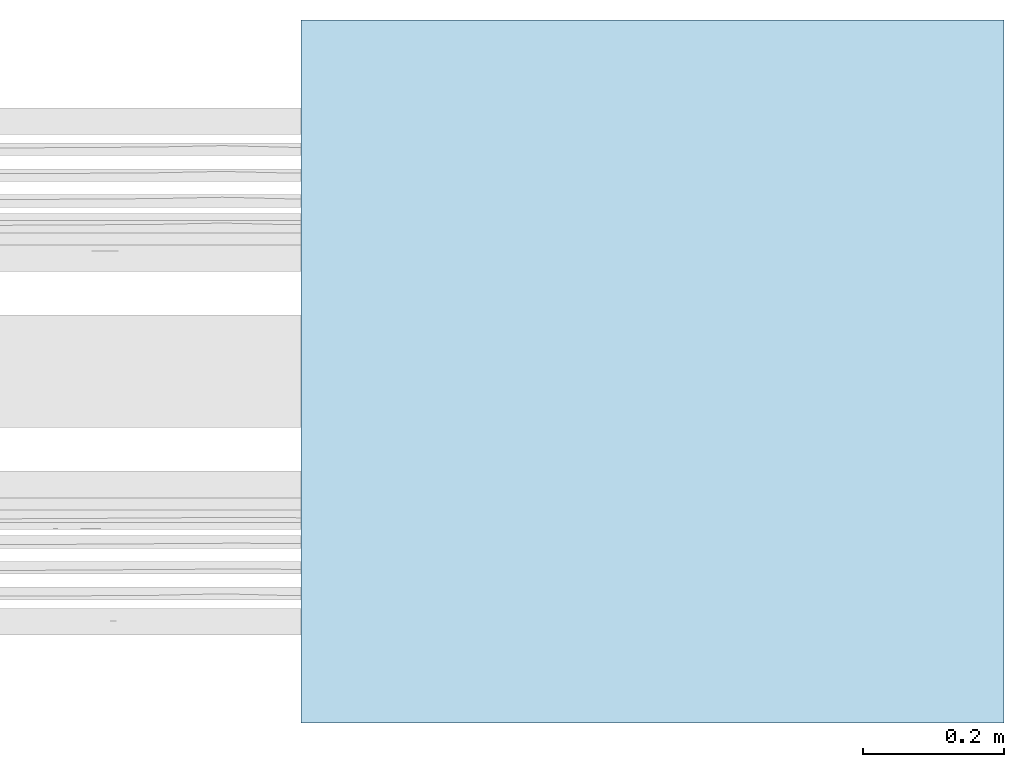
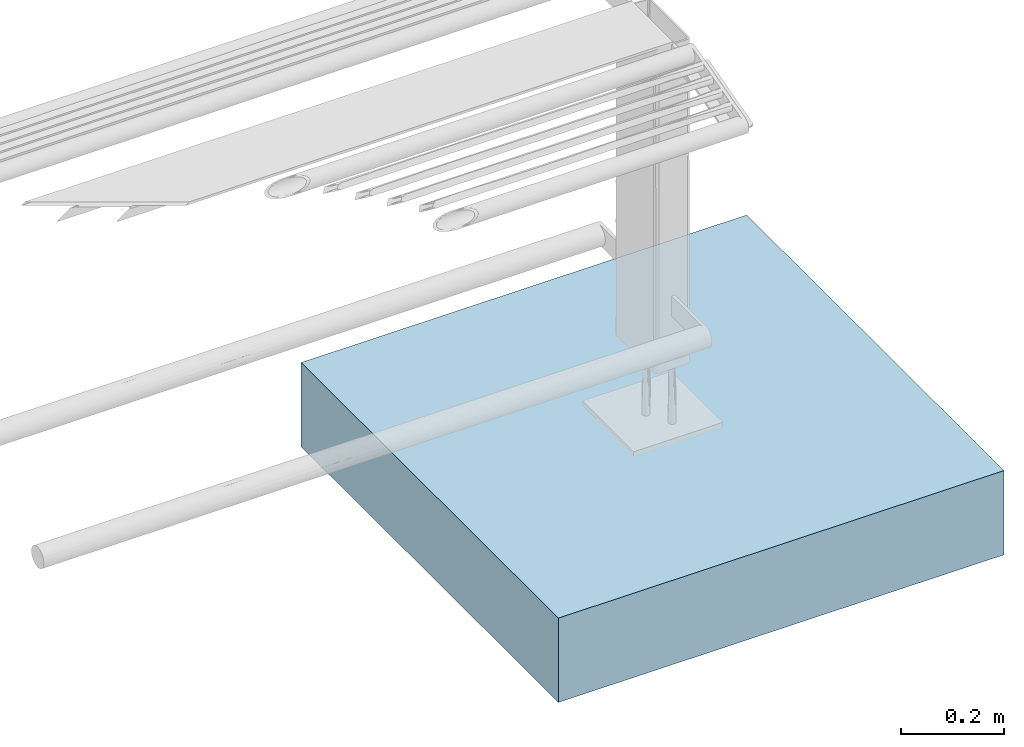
# One storey, incomplete: 1 slab.
"""IFC4 building model written with IfcOpenShell, lengths in metres."""

from ifc_helpers import new_model, entity, si_unit, converted_unit, direction, frame, frame_2d, origin, place, context, subcontext, project, spatial, rectangle, extrude, material, type_object, element, save


model = new_model("IFC4")

# Units and contexts
model_context = context("Model", 3, precision=1e-05, world=origin(), true_north=direction((6.123031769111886e-17, 1.0)))
body_context = subcontext(model_context, "Body", "Model", "MODEL_VIEW")
ifc_project = project(units=[si_unit("LENGTHUNIT", "METRE"), converted_unit("PLANEANGLEUNIT", "DEGREE", entity("IfcPlaneAngleMeasure", 0.017453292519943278), si_unit("PLANEANGLEUNIT", "RADIAN"), dimensions=[0, 0, 0, 0, 0, 0, 0]), si_unit("AREAUNIT", "SQUARE_METRE")], contexts=[model_context])

# Site, building, storey
site_placement = place(None, origin())
site = spatial("IfcSite", under=ifc_project, at=site_placement, Name="Default", CompositionType="ELEMENT")
building_placement = place(site_placement, origin())
building = spatial("IfcBuilding", under=site, at=building_placement, CompositionType="ELEMENT")
storey_placement = place(building_placement, origin())
storey = spatial("IfcBuildingStorey", under=building, at=storey_placement, Name="Ebene 0", CompositionType="ELEMENT", Elevation=0.0)

# Slab
ifc_material = material(Name="DB_Fertigbeton", Category="DB_Beton")
slab_type = type_object("IfcSlabType", Name="DB_Calidum_light_Fundament:DB_Calidum_light_Fundament", PredefinedType="BASESLAB", material=ifc_material)
slab_placement = place(storey_placement, origin())
element("IfcSlab", 1, at=slab_placement, inside=storey, type_object=slab_type, Name="DB_Calidum_light_Fundament:DB_Calidum_light_Fundament", ObjectType="DB_Calidum_light_Fundament:DB_Calidum_light_Fundament", PredefinedType="BASESLAB", context=body_context, shape_type="SweptSolid", body=[
    extrude(rectangle(XDim=0.9999999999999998, YDim=0.9999999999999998, at=frame_2d((0.0, 1.1102230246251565e-16), x_axis=(1.0, 0.0))), frame((1.5000000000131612, 0.0, -0.36199999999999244), z_axis=(0.0, 0.0, 1.0), x_axis=(0.0, 1.0, 0.0)), (0.0, 0.0, 1.0), 0.2),
])

save(model, "model.ifc")
